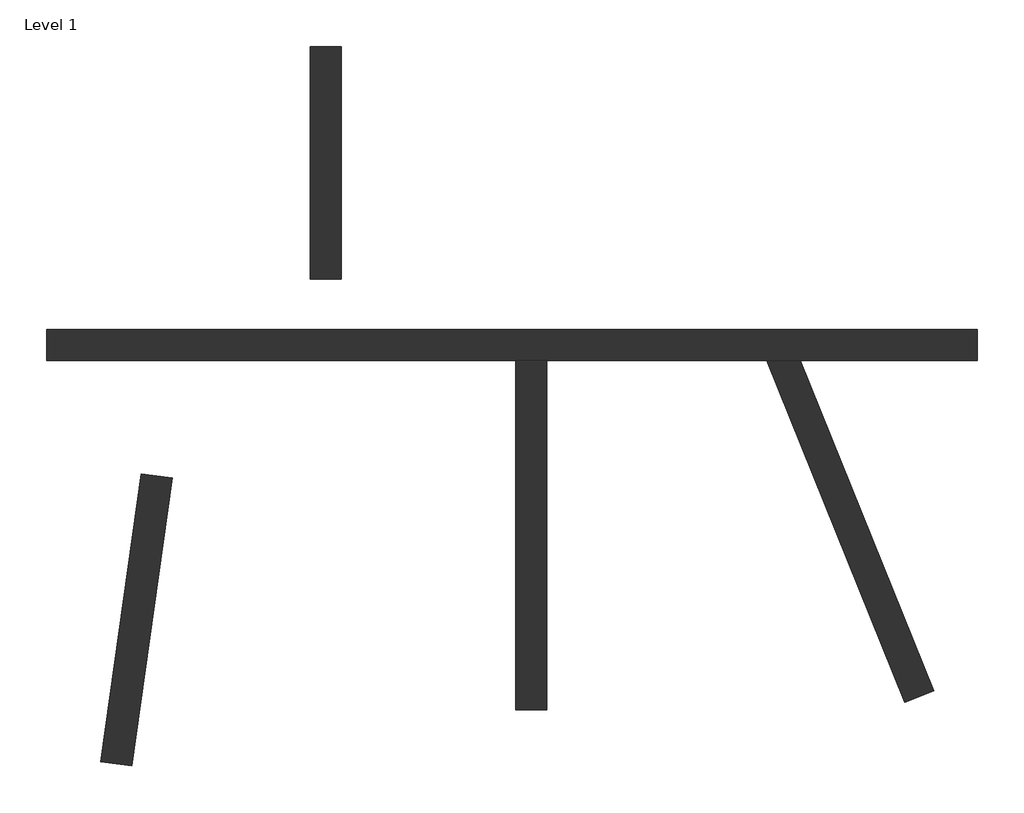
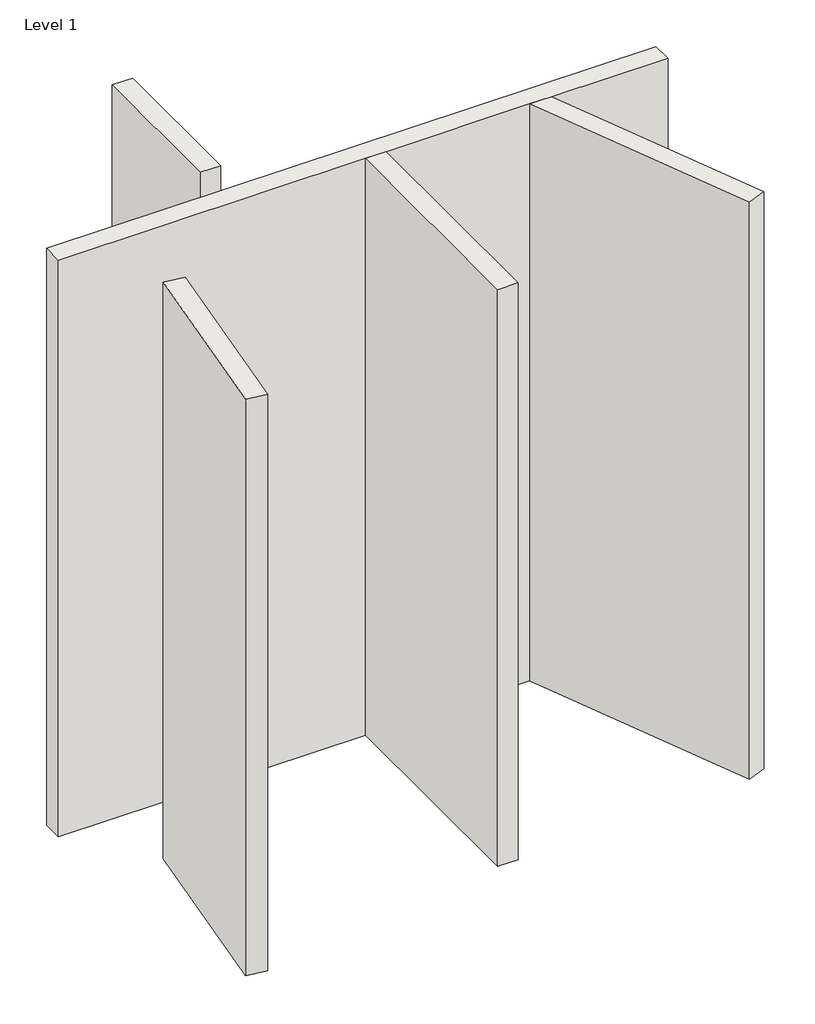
# One storey: 5 walls.
"""IFC4 building model written with IfcOpenShell, lengths in millimetres."""

from ifc_helpers import new_model, si_unit, origin, origin_with_axes, place, context, project, spatial, polyline, outline, extrude, faceted_brep, element, save

model = new_model("IFC4")

# Units and contexts
model_context = context("Model", 3, world=origin())
ifc_project = project(units=[si_unit("LENGTHUNIT", "METRE", prefix="MILLI")], contexts=[model_context])

# Site, building, storey
site = spatial("IfcSite", under=ifc_project)
building = spatial("IfcBuilding", under=site)
storey = spatial("IfcBuildingStorey", under=building, Name="Level 1", Elevation=0.0)

# Walls
placement = place(None, origin())
element("IfcWall", 1, ObjectType="Generic - 8\"", at=placement, inside=storey, context=model_context, shape_type="Brep", body=[
    faceted_brep([(-2311.6602902, -741.8838621, 0.0), (761.7397098, -741.8838621, 0.0), (964.9397098, -741.8838621, 0.0), (2404.0295523, -741.8838621, 0.0), (2623.187812, -741.8838621, 0.0), (3784.3397098, -741.8838621, 0.0), (3784.3397098, -741.8838621, 6096.0), (2623.187812, -741.8838621, 6096.0), (2404.0295523, -741.8838621, 6096.0), (964.9397098, -741.8838621, 6096.0), (761.7397098, -741.8838621, 6096.0), (-2311.6602902, -741.8838621, 6096.0), (-2311.6602902, -538.6838621, 0.0), (-2311.6602902, -538.6838621, 6096.0), (3784.3397098, -538.6838621, 6096.0), (3784.3397098, -538.6838621, 0.0)], [[[0, 1, 2, 3, 4, 5, 6, 7, 8, 9, 10, 11]], [[12, 13, 14, 15]], [[5, 4, 3, 2, 1, 0, 12, 15]], [[6, 5, 15, 14]], [[11, 10, 9, 8, 7, 6, 14, 13]], [[0, 11, 13, 12]]]),
])
element("IfcWall", 2, ObjectType="Generic - 8\"", at=placement, inside=storey, context=model_context, shape_type="SweptSolid", body=[
    extrude(outline(polyline([(-584.4602902, -208.4838621), (-584.4602902, 1315.5161379), (-381.2602902, 1315.5161379), (-381.2602902, -208.4838621), (-584.4602902, -208.4838621)])), origin_with_axes(), (0.0, 0.0, 1.0), 6096.0),
])
element("IfcWall", 3, ObjectType="Generic - 8\"", at=placement, inside=storey, context=model_context, shape_type="SweptSolid", body=[
    extrude(outline(polyline([(-1955.0715259, -3370.5225949), (-1689.9467686, -1484.061924), (-1488.724297, -1512.3418981), (-1753.8490544, -3398.8025691), (-1955.0715259, -3370.5225949)])), origin_with_axes(), (0.0, 0.0, 1.0), 6096.0),
])
element("IfcWall", 4, ObjectType="Generic - 8\"", at=placement, inside=storey, context=model_context, shape_type="SweptSolid", body=[
    extrude(outline(polyline([(3309.1378302, -2982.1054617), (2404.0295523, -741.8838621), (2623.187812, -741.8838621), (3497.5415895, -2905.9854019), (3309.1378302, -2982.1054617)])), origin_with_axes(), (0.0, 0.0, 1.0), 6096.0),
])
element("IfcWall", 5, ObjectType="Generic - 8\"", at=placement, inside=storey, context=model_context, shape_type="SweptSolid", body=[
    extrude(outline(polyline([(761.7397098, -3030.4352604), (761.7397098, -741.8838621), (964.9397098, -741.8838621), (964.9397098, -3030.4352604), (761.7397098, -3030.4352604)])), origin_with_axes(), (0.0, 0.0, 1.0), 6096.0),
])

save(model, "model.ifc")
